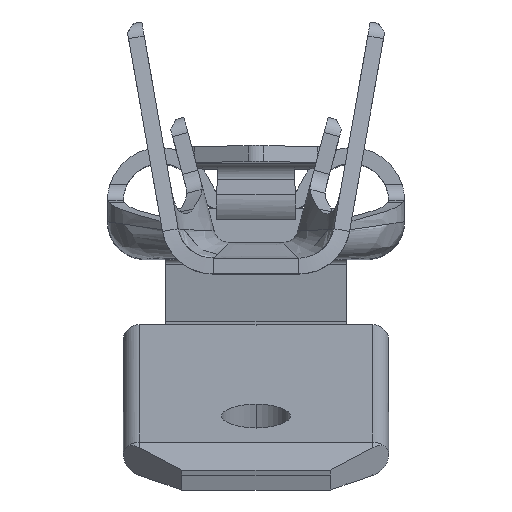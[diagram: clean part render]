
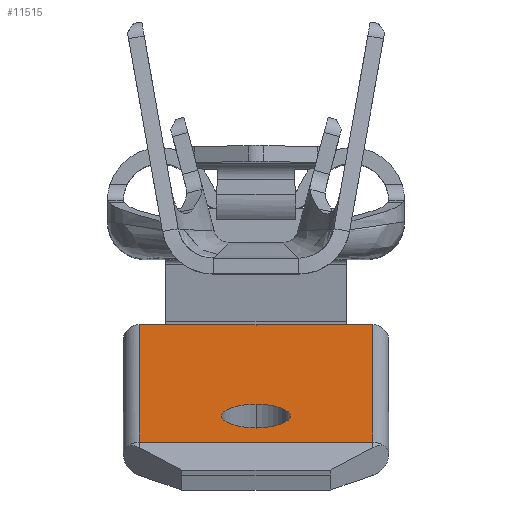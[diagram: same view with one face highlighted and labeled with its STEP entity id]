
A CAD part, top view. The second image highlights one B-rep face of the part: STEP entity #11515.
In plain terms, the highlighted planar face has unit normal (0, 0.94, 0.342).
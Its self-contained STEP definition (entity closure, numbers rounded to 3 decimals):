
#2861=DIRECTION('',(-1.,0.,0.));
#2862=VECTOR('',#2861,2.2);
#2863=CARTESIAN_POINT('',(0.,-1.226,-4.314));
#2864=LINE('',#2863,#2862);
#2909=DIRECTION('',(1.,0.,0.));
#2910=VECTOR('',#2909,4.4);
#2911=CARTESIAN_POINT('',(-2.2,-3.448,
1.79));
#2912=LINE('',#2911,#2910);
#2917=DIRECTION('',(1.,0.,0.));
#2918=VECTOR('',#2917,2.2);
#2919=CARTESIAN_POINT('',(0.,-1.226,-4.314));
#2920=LINE('',#2919,#2918);
#2921=CARTESIAN_POINT('',(0.,-2.955,0.436));
#2922=DIRECTION('',(0.,0.94,0.342));
#2923=DIRECTION('',(0.,0.342,-0.94));
#2924=AXIS2_PLACEMENT_3D('',#2921,#2922,#2923);
#2926=CARTESIAN_POINT('',(0.,-2.955,0.436));
#2927=DIRECTION('',(0.,0.94,0.342));
#2928=DIRECTION('',(0.,-0.342,0.94));
#2929=AXIS2_PLACEMENT_3D('',#2926,#2927,#2928);
#3003=DIRECTION('',(0.,0.342,-0.94));
#3004=VECTOR('',#3003,6.497);
#3005=CARTESIAN_POINT('',(2.2,-3.448,1.79));
#3006=LINE('',#3005,#3004);
#3090=DIRECTION('',(0.,-0.342,0.94));
#3091=VECTOR('',#3090,6.497);
#3092=CARTESIAN_POINT('',(-2.2,-1.226,
-4.314));
#3093=LINE('',#3092,#3091);
#3385=CARTESIAN_POINT('',(0.,-1.226,-4.314));
#3386=VERTEX_POINT('',#3385);
#3387=CARTESIAN_POINT('',(-2.2,-1.226,
-4.314));
#3388=VERTEX_POINT('',#3387);
#3405=CARTESIAN_POINT('',(-2.2,-3.448,
1.79));
#3406=CARTESIAN_POINT('',(2.2,-3.448,1.79));
#3407=VERTEX_POINT('',#3405);
#3408=VERTEX_POINT('',#3406);
#3413=CARTESIAN_POINT('',(2.2,-1.226,
-4.314));
#3414=VERTEX_POINT('',#3413);
#3415=CARTESIAN_POINT('',(0.,-2.733,-0.175));
#3416=CARTESIAN_POINT('',(0.,-3.177,1.047));
#3417=VERTEX_POINT('',#3415);
#3418=VERTEX_POINT('',#3416);
#11494=CARTESIAN_POINT('',(-2.2,-3.79,2.73));
#11495=DIRECTION('',(0.,0.94,0.342));
#11496=DIRECTION('',(1.,0.,0.));
#11497=AXIS2_PLACEMENT_3D('',#11494,#11495,#11496);
#11498=PLANE('',#11497);
#11499=ORIENTED_EDGE('',*,*,#11416,.F.);
#11501=ORIENTED_EDGE('',*,*,#11500,.T.);
#11503=ORIENTED_EDGE('',*,*,#11502,.F.);
#11504=ORIENTED_EDGE('',*,*,#11480,.F.);
#11506=ORIENTED_EDGE('',*,*,#11505,.F.);
#11507=EDGE_LOOP('',(#11499,#11501,#11503,#11504,#11506));
#11508=FACE_OUTER_BOUND('',#11507,.F.);
#11510=ORIENTED_EDGE('',*,*,#11509,.T.);
#11512=ORIENTED_EDGE('',*,*,#11511,.T.);
#11513=EDGE_LOOP('',(#11510,#11512));
#11514=FACE_BOUND('',#11513,.F.);
#2925=CIRCLE('',#2924,0.65);
#2930=CIRCLE('',#2929,0.65);
#11416=EDGE_CURVE('',#3386,#3388,#2864,.T.);
#11480=EDGE_CURVE('',#3407,#3408,#2912,.T.);
#11500=EDGE_CURVE('',#3386,#3414,#2920,.T.);
#11502=EDGE_CURVE('',#3408,#3414,#3006,.T.);
#11505=EDGE_CURVE('',#3388,#3407,#3093,.T.);
#11509=EDGE_CURVE('',#3417,#3418,#2925,.T.);
#11511=EDGE_CURVE('',#3418,#3417,#2930,.T.);
#11515=ADVANCED_FACE('',(#11508,#11514),#11498,.T.);
